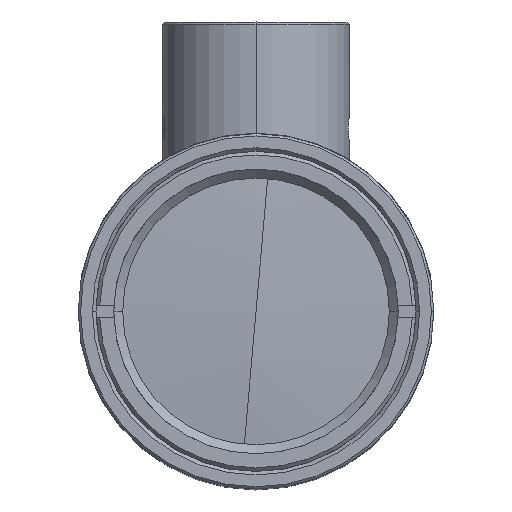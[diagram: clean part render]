
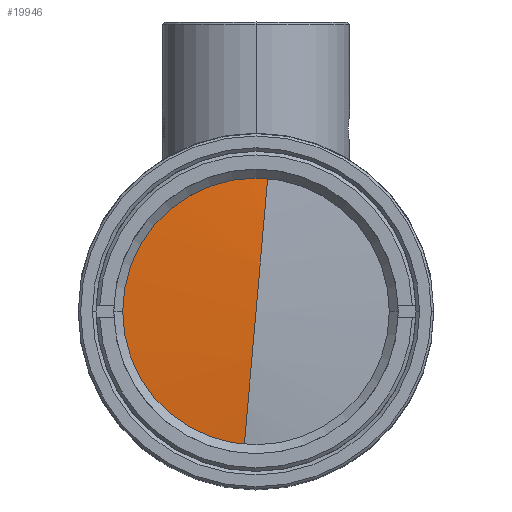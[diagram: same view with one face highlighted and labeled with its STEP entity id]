
A CAD part, top view. The second image highlights one B-rep face of the part: STEP entity #19946.
In plain terms, the highlighted spherical face has radius 132.5 mm.
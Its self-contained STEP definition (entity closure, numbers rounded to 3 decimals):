
#46 = VERTEX_POINT ( 'NONE', #10088 ) ;
#163 = CARTESIAN_POINT ( 'NONE',  ( -11.984, 1.051, 142.857 ) ) ;
#253 = CARTESIAN_POINT ( 'NONE',  ( 0., 0., 10.904 ) ) ;
#860 = DIRECTION ( 'NONE',  ( 0., 0., 1. ) ) ;
#1719 = ORIENTED_EDGE ( 'NONE', *, *, #15266, .F. ) ;
#1815 = ORIENTED_EDGE ( 'NONE', *, *, #7018, .T. ) ;
#2446 = DIRECTION ( 'NONE',  ( -0.087, -0.996, 0. ) ) ;
#3194 = CARTESIAN_POINT ( 'NONE',  ( -1.051, -11.984, 142.857 ) ) ;
#3811 = CARTESIAN_POINT ( 'NONE',  ( 0., 0., 142.857 ) ) ;
#4054 = DIRECTION ( 'NONE',  ( 0.996, -0.087, 0. ) ) ;
#4608 = CIRCLE ( 'NONE', #20026, 12.03 ) ;
#5175 = AXIS2_PLACEMENT_3D ( 'NONE', #3811, #18763, #15191 ) ;
#5552 = CARTESIAN_POINT ( 'NONE',  ( 1.051, 11.984, 142.857 ) ) ;
#6059 = AXIS2_PLACEMENT_3D ( 'NONE', #8668, #8787, #6935 ) ;
#6935 = DIRECTION ( 'NONE',  ( 0.087, 0.996, 0. ) ) ;
#7018 = EDGE_CURVE ( 'NONE', #23512, #7655, #17454, .T. ) ;
#7655 = VERTEX_POINT ( 'NONE', #163 ) ;
#8094 = ORIENTED_EDGE ( 'NONE', *, *, #16251, .T. ) ;
#8668 = CARTESIAN_POINT ( 'NONE',  ( 0., 0., 10.904 ) ) ;
#8787 = DIRECTION ( 'NONE',  ( -0.996, 0.087, 0. ) ) ;
#10088 = CARTESIAN_POINT ( 'NONE',  ( 0., 0., 143.404 ) ) ;
#10240 = CARTESIAN_POINT ( 'NONE',  ( 0., 0., 142.857 ) ) ;
#10324 = AXIS2_PLACEMENT_3D ( 'NONE', #19258, #22819, #2446 ) ;
#10463 = CIRCLE ( 'NONE', #14034, 132.5 ) ;
#11598 = DIRECTION ( 'NONE',  ( 0.087, 0.996, 0. ) ) ;
#11654 = EDGE_CURVE ( 'NONE', #22832, #46, #19810, .T. ) ;
#14034 = AXIS2_PLACEMENT_3D ( 'NONE', #253, #4054, #11598 ) ;
#14501 = FACE_OUTER_BOUND ( 'NONE', #16787, .T. ) ;
#15191 = DIRECTION ( 'NONE',  ( -0.996, 0.087, 0. ) ) ;
#15266 = EDGE_CURVE ( 'NONE', #23512, #46, #10463, .T. ) ;
#16251 = EDGE_CURVE ( 'NONE', #7655, #22832, #4608, .T. ) ;
#16787 = EDGE_LOOP ( 'NONE', ( #1815, #8094, #19197, #1719 ) ) ;
#17454 = CIRCLE ( 'NONE', #5175, 12.03 ) ;
#18763 = DIRECTION ( 'NONE',  ( 0., 0., 1. ) ) ;
#19197 = ORIENTED_EDGE ( 'NONE', *, *, #11654, .T. ) ;
#19258 = CARTESIAN_POINT ( 'NONE',  ( 0., 0., 10.904 ) ) ;
#19810 = CIRCLE ( 'NONE', #10324, 132.5 ) ;
#19946 = ADVANCED_FACE ( 'NONE', ( #14501 ), #23613, .T. ) ;
#20026 = AXIS2_PLACEMENT_3D ( 'NONE', #10240, #860, #20126 ) ;
#20126 = DIRECTION ( 'NONE',  ( -0.996, 0.087, 0. ) ) ;
#22819 = DIRECTION ( 'NONE',  ( -0.996, 0.087, 0. ) ) ;
#22832 = VERTEX_POINT ( 'NONE', #3194 ) ;
#23512 = VERTEX_POINT ( 'NONE', #5552 ) ;
#23613 = SPHERICAL_SURFACE ( 'NONE', #6059, 132.5 ) ;
